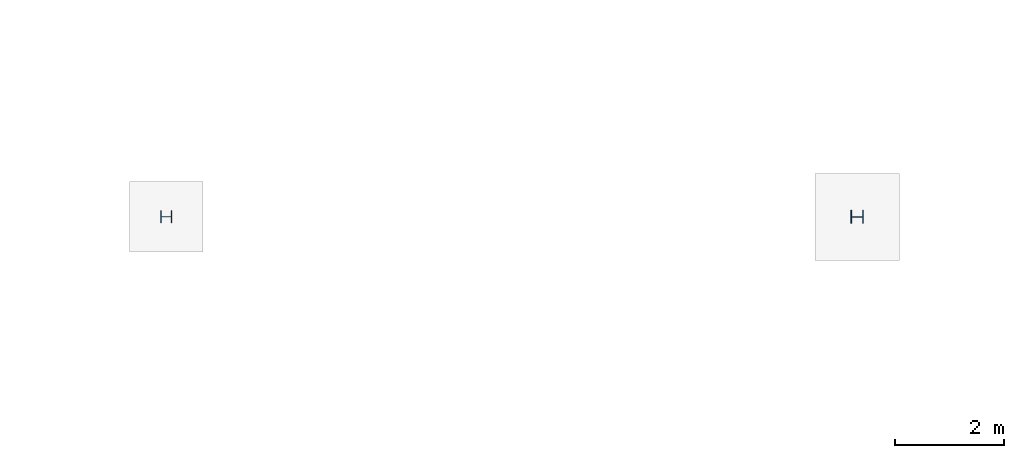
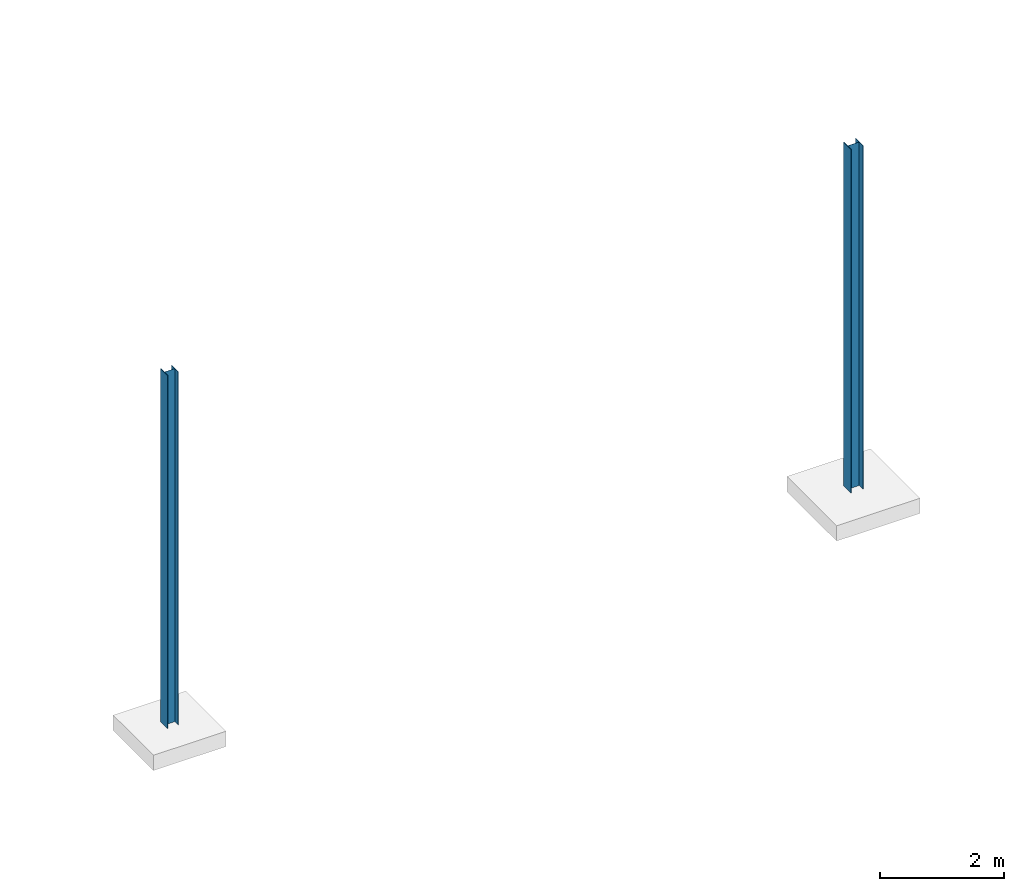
# One storey, part 32 of 59: 2 columns.
"""IFC2X3 building model written with IfcOpenShell, lengths in metres."""

from ifc_helpers import new_model, entity, si_unit, converted_unit, derived_unit, frame, origin, origin_with_axes, place, context, subcontext, project, spatial, polyline, outline, extrude, material, element, save


model = new_model("IFC2X3")

# Units and contexts
model_context = context("Model", 3, precision=1e-05, world=origin())
body_context = subcontext(model_context, "Body", "Model", "MODEL_VIEW")
ifc_project = project(units=[si_unit("LENGTHUNIT", "METRE"), si_unit("AREAUNIT", "SQUARE_METRE"), si_unit("VOLUMEUNIT", "CUBIC_METRE"), si_unit("MASSUNIT", "GRAM", prefix="KILO"), converted_unit("PLANEANGLEUNIT", "DEGREE", entity("IfcPlaneAngleMeasure", 0.0174532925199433), si_unit("PLANEANGLEUNIT", "RADIAN"), dimensions=[0, 0, 0, 0, 0, 0, 0]), derived_unit("THERMALTRANSMITTANCEUNIT", [(si_unit("POWERUNIT", "WATT"), 1), (si_unit("THERMODYNAMICTEMPERATUREUNIT", "KELVIN"), -1), (si_unit("LENGTHUNIT", "METRE"), -2)]), derived_unit("VOLUMETRICFLOWRATEUNIT", [(si_unit("LENGTHUNIT", "METRE"), 3), (converted_unit("TIMEUNIT", "hour", entity("IfcTimeMeasure", 3600.0), si_unit("TIMEUNIT", "SECOND"), dimensions=[0, 0, 1, 0, 0, 0, 0]), -1), (si_unit("LENGTHUNIT", "METRE"), -1)])], contexts=[model_context])

# Site, building, storey
site_placement = place(None, origin())
site = spatial("IfcSite", under=ifc_project, at=site_placement, Name="TWP_Speiseverteilzentrum SBW VZ II", CompositionType="ELEMENT")
building_placement = place(site_placement, origin())
building = spatial("IfcBuilding", under=site, at=building_placement, Name="Speiseverteilzentrum SBW VZ II", CompositionType="ELEMENT")
storey_placement = place(building_placement, frame((0.0, 0.0, 1.7307)))
storey = spatial("IfcBuildingStorey", under=building, at=storey_placement, Name="EG_Produktion_FFB", CompositionType="ELEMENT", Elevation=1.7307)

# Columns
ifc_material_1 = material(Name="S235")
column_1_placement = place(storey_placement, frame((88.2116307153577, 29.9797343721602, -1.225)))
element("IfcColumn", 1, at=column_1_placement, inside=storey, material=ifc_material_1, Name="Stahlstütze", context=body_context, shape_type="SweptSolid", body=[
    extrude(outline(polyline([(0.23, 0.0), (0.23, 0.24), (0.218, 0.24), (0.218, 0.12375), (0.012, 0.12375), (0.012, 0.24), (0.0, 0.24), (0.0, 0.0), (0.012, 0.0), (0.012, 0.11625), (0.218, 0.11625), (0.218, 0.0), (0.23, 0.0)])), origin_with_axes(), (0.0, 0.0, 1.0), 6.7443),
])
ifc_material_2 = material(Name="S235")
column_2_placement = place(storey_placement, frame((75.5199999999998, 29.9897343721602, -1.41)))
element("IfcColumn", 2, at=column_2_placement, inside=storey, material=ifc_material_2, Name="Stahlstütze", context=body_context, shape_type="SweptSolid", body=[
    extrude(outline(polyline([(0.21, 0.0), (0.21, 0.22), (0.199, 0.22), (0.199, 0.1135), (0.011, 0.1135), (0.011, 0.22), (0.0, 0.22), (0.0, 0.0), (0.011, 0.0), (0.011, 0.1065), (0.199, 0.1065), (0.199, 0.0), (0.21, 0.0)])), origin_with_axes(), (0.0, 0.0, 1.0), 6.9293),
])

save(model, "model.ifc")
